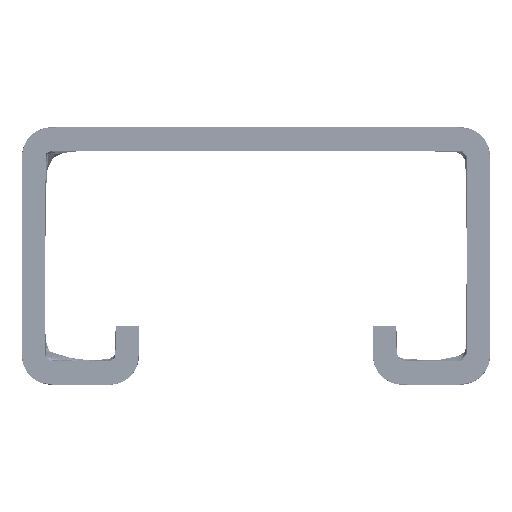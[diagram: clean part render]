
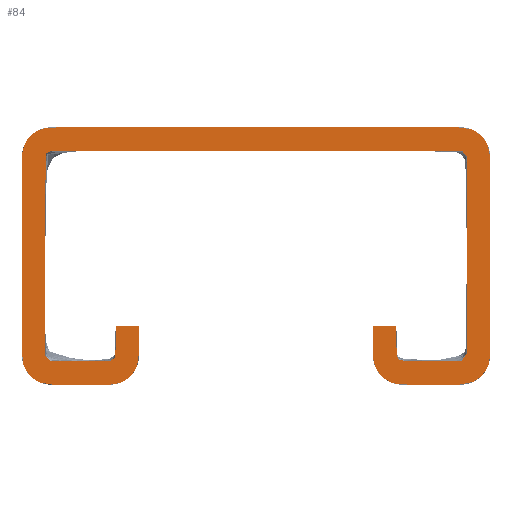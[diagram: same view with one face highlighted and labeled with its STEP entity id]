
A CAD part, front view. The second image highlights one B-rep face of the part: STEP entity #84.
In plain terms, the highlighted planar face has unit normal (0, -1, 0).
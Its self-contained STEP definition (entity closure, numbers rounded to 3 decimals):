
#84=ADVANCED_FACE('',(#128),#913,.T.);
#128=FACE_OUTER_BOUND('',#172,.T.);
#172=EDGE_LOOP('',(#286,#287,#288,#289));
#286=ORIENTED_EDGE('',*,*,#538,.T.);
#287=ORIENTED_EDGE('',*,*,#543,.T.);
#288=ORIENTED_EDGE('',*,*,#542,.T.);
#289=ORIENTED_EDGE('',*,*,#541,.T.);
#538=EDGE_CURVE('',#790,#794,#706,.T.);
#541=EDGE_CURVE('',#792,#790,#708,.T.);
#542=EDGE_CURVE('',#793,#792,#709,.T.);
#543=EDGE_CURVE('',#794,#793,#710,.T.);
#706=(
BOUNDED_CURVE()
B_SPLINE_CURVE(2,(#2181,#2182,#2183),.UNSPECIFIED.,.F.,.F.)
B_SPLINE_CURVE_WITH_KNOTS((3,3),(0.,2.),.UNSPECIFIED.)
CURVE()
GEOMETRIC_REPRESENTATION_ITEM()
RATIONAL_B_SPLINE_CURVE((1.,1.,1.))
REPRESENTATION_ITEM('')
);
#708=(
BOUNDED_CURVE()
B_SPLINE_CURVE(2,(#2189,#2190,#2191,#2192,#2193,#2194,#2195,#2196,#2197,
#2198,#2199,#2200,#2201,#2202,#2203,#2204,#2205,#2206,#2207,#2208,#2209,
#2210,#2211,#2212,#2213,#2214,#2215),.UNSPECIFIED.,.F.,.F.)
B_SPLINE_CURVE_WITH_KNOTS((3,2,2,2,2,2,2,2,2,2,2,2,2,3),(118.712,
121.212,121.998,126.998,127.783,157.783,
158.569,193.569,194.354,224.354,225.139,
230.139,230.925,233.425),.UNSPECIFIED.)
CURVE()
GEOMETRIC_REPRESENTATION_ITEM()
RATIONAL_B_SPLINE_CURVE((1.,1.,1.,0.707,1.,1.,1.,0.707,
1.,1.,1.,0.707,1.,1.,1.,0.707,1.,1.,1.,0.707,
1.,1.,1.,0.707,1.,1.,1.))
REPRESENTATION_ITEM('')
);
#709=(
BOUNDED_CURVE()
B_SPLINE_CURVE(2,(#2216,#2217,#2218),.UNSPECIFIED.,.F.,.F.)
B_SPLINE_CURVE_WITH_KNOTS((3,3),(116.712,118.712),
 .UNSPECIFIED.)
CURVE()
GEOMETRIC_REPRESENTATION_ITEM()
RATIONAL_B_SPLINE_CURVE((1.,1.,1.))
REPRESENTATION_ITEM('')
);
#710=(
BOUNDED_CURVE()
B_SPLINE_CURVE(2,(#2219,#2220,#2221,#2222,#2223,#2224,#2225,#2226,#2227,
#2228,#2229,#2230,#2231,#2232,#2233,#2234,#2235,#2236,#2237,#2238,#2239,
#2240,#2241,#2242,#2243,#2244,#2245),.UNSPECIFIED.,.F.,.F.)
B_SPLINE_CURVE_WITH_KNOTS((3,2,2,2,2,2,2,2,2,2,2,2,2,3),(2.,4.5,5.285,
10.285,11.071,41.071,41.856,76.856,
77.642,107.642,108.427,113.427,114.212,
116.712),.UNSPECIFIED.)
CURVE()
GEOMETRIC_REPRESENTATION_ITEM()
RATIONAL_B_SPLINE_CURVE((1.,1.,1.,0.707,1.,1.,1.,0.707,
1.,1.,1.,0.707,1.,1.,1.,0.707,1.,1.,1.,0.707,
1.,1.,1.,0.707,1.,1.,1.))
REPRESENTATION_ITEM('')
);
#790=VERTEX_POINT('',#2097);
#792=VERTEX_POINT('',#2099);
#793=VERTEX_POINT('',#2100);
#794=VERTEX_POINT('',#2101);
#913=PLANE('',#1006);
#1006=AXIS2_PLACEMENT_3D('',#1022,#1014,$);
#1014=DIRECTION('',(0.,-1.,0.));
#1022=CARTESIAN_POINT('',(20.,0.,22.));
#2097=CARTESIAN_POINT('',(-10.,0.,5.));
#2099=CARTESIAN_POINT('',(10.,0.,5.));
#2100=CARTESIAN_POINT('',(12.,0.,5.));
#2101=CARTESIAN_POINT('',(-12.,0.,5.));
#2181=CARTESIAN_POINT('',(-10.,0.,5.));
#2182=CARTESIAN_POINT('',(-11.,0.,5.));
#2183=CARTESIAN_POINT('',(-12.,0.,5.));
#2189=CARTESIAN_POINT('',(10.,0.,5.));
#2190=CARTESIAN_POINT('',(10.,0.,3.75));
#2191=CARTESIAN_POINT('',(10.,0.,2.5));
#2192=CARTESIAN_POINT('',(10.,0.,0.));
#2193=CARTESIAN_POINT('',(12.5,0.,0.));
#2194=CARTESIAN_POINT('',(15.,0.,0.));
#2195=CARTESIAN_POINT('',(17.5,0.,0.));
#2196=CARTESIAN_POINT('',(20.,0.,0.));
#2197=CARTESIAN_POINT('',(20.,0.,2.5));
#2198=CARTESIAN_POINT('',(20.,0.,4.5));
#2199=CARTESIAN_POINT('',(20.,0.,19.5));
#2200=CARTESIAN_POINT('',(20.,0.,22.));
#2201=CARTESIAN_POINT('',(17.5,0.,22.));
#2202=CARTESIAN_POINT('',(0.,0.,22.));
#2203=CARTESIAN_POINT('',(-17.5,0.,22.));
#2204=CARTESIAN_POINT('',(-20.,0.,22.));
#2205=CARTESIAN_POINT('',(-20.,0.,19.5));
#2206=CARTESIAN_POINT('',(-20.,0.,4.5));
#2207=CARTESIAN_POINT('',(-20.,0.,2.5));
#2208=CARTESIAN_POINT('',(-20.,0.,0.));
#2209=CARTESIAN_POINT('',(-17.5,0.,0.));
#2210=CARTESIAN_POINT('',(-15.,0.,0.));
#2211=CARTESIAN_POINT('',(-12.5,0.,0.));
#2212=CARTESIAN_POINT('',(-10.,0.,0.));
#2213=CARTESIAN_POINT('',(-10.,0.,2.5));
#2214=CARTESIAN_POINT('',(-10.,0.,3.75));
#2215=CARTESIAN_POINT('',(-10.,0.,5.));
#2216=CARTESIAN_POINT('',(12.,0.,5.));
#2217=CARTESIAN_POINT('',(11.,0.,5.));
#2218=CARTESIAN_POINT('',(10.,0.,5.));
#2219=CARTESIAN_POINT('',(-12.,0.,5.));
#2220=CARTESIAN_POINT('',(-12.,0.,3.75));
#2221=CARTESIAN_POINT('',(-12.,0.,2.5));
#2222=CARTESIAN_POINT('',(-12.,0.,2.));
#2223=CARTESIAN_POINT('',(-12.5,0.,2.));
#2224=CARTESIAN_POINT('',(-15.,0.,2.));
#2225=CARTESIAN_POINT('',(-17.5,0.,2.));
#2226=CARTESIAN_POINT('',(-18.,0.,2.));
#2227=CARTESIAN_POINT('',(-18.,0.,2.5));
#2228=CARTESIAN_POINT('',(-18.,0.,4.5));
#2229=CARTESIAN_POINT('',(-18.,0.,19.5));
#2230=CARTESIAN_POINT('',(-18.,0.,20.));
#2231=CARTESIAN_POINT('',(-17.5,0.,20.));
#2232=CARTESIAN_POINT('',(0.,0.,20.));
#2233=CARTESIAN_POINT('',(17.5,0.,20.));
#2234=CARTESIAN_POINT('',(18.,0.,20.));
#2235=CARTESIAN_POINT('',(18.,0.,19.5));
#2236=CARTESIAN_POINT('',(18.,0.,4.5));
#2237=CARTESIAN_POINT('',(18.,0.,2.5));
#2238=CARTESIAN_POINT('',(18.,0.,2.));
#2239=CARTESIAN_POINT('',(17.5,0.,2.));
#2240=CARTESIAN_POINT('',(15.,0.,2.));
#2241=CARTESIAN_POINT('',(12.5,0.,2.));
#2242=CARTESIAN_POINT('',(12.,0.,2.));
#2243=CARTESIAN_POINT('',(12.,0.,2.5));
#2244=CARTESIAN_POINT('',(12.,0.,3.75));
#2245=CARTESIAN_POINT('',(12.,0.,5.));
